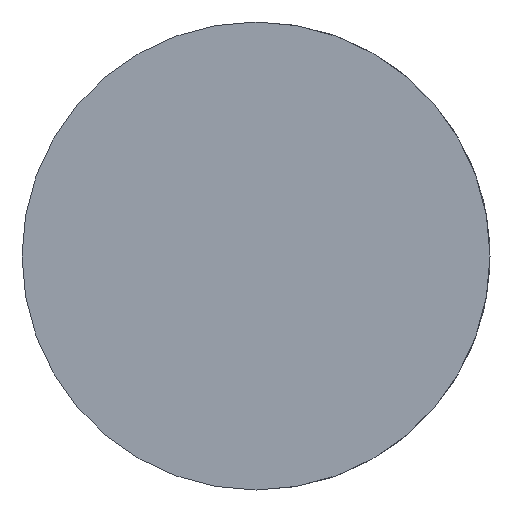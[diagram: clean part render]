
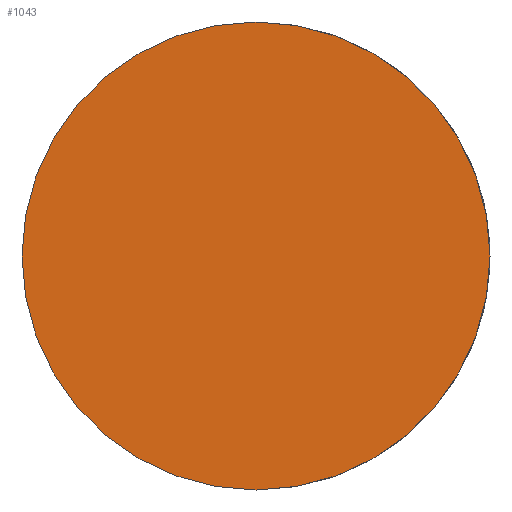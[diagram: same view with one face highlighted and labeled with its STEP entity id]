
A CAD part, front view. The second image highlights one B-rep face of the part: STEP entity #1043.
In plain terms, the highlighted planar face has unit normal (0, -1, 0).
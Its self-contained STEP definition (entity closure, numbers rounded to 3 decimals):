
#16 = CARTESIAN_POINT ( 'NONE',  ( 0., 0., 0. ) ) ;
#59 = DIRECTION ( 'NONE',  ( 0., 0., -1. ) ) ;
#265 = AXIS2_PLACEMENT_3D ( 'NONE', #1636, #524, #1240 ) ;
#390 = ORIENTED_EDGE ( 'NONE', *, *, #1194, .T. ) ;
#401 = FACE_OUTER_BOUND ( 'NONE', #1257, .T. ) ;
#413 = DIRECTION ( 'NONE',  ( 0., 0., -1. ) ) ;
#416 = CIRCLE ( 'NONE', #2144, 60. ) ;
#470 = EDGE_CURVE ( 'NONE', #1812, #1271, #416, .T. ) ;
#524 = DIRECTION ( 'NONE',  ( 0., -1., 0. ) ) ;
#663 = CARTESIAN_POINT ( 'NONE',  ( 0., 0., -60. ) ) ;
#987 = CARTESIAN_POINT ( 'NONE',  ( 0., 0., 0. ) ) ;
#1043 = ADVANCED_FACE ( 'NONE', ( #401 ), #1100, .T. ) ;
#1100 = PLANE ( 'NONE',  #265 ) ;
#1129 = ORIENTED_EDGE ( 'NONE', *, *, #470, .T. ) ;
#1194 = EDGE_CURVE ( 'NONE', #1271, #1812, #1404, .T. ) ;
#1240 = DIRECTION ( 'NONE',  ( 0., 0., -1. ) ) ;
#1257 = EDGE_LOOP ( 'NONE', ( #1129, #390 ) ) ;
#1271 = VERTEX_POINT ( 'NONE', #663 ) ;
#1404 = CIRCLE ( 'NONE', #1743, 60. ) ;
#1636 = CARTESIAN_POINT ( 'NONE',  ( 0., 0., 0. ) ) ;
#1640 = DIRECTION ( 'NONE',  ( 0., -1., 0. ) ) ;
#1743 = AXIS2_PLACEMENT_3D ( 'NONE', #987, #2175, #413 ) ;
#1812 = VERTEX_POINT ( 'NONE', #2193 ) ;
#2144 = AXIS2_PLACEMENT_3D ( 'NONE', #16, #1640, #59 ) ;
#2175 = DIRECTION ( 'NONE',  ( 0., -1., 0. ) ) ;
#2193 = CARTESIAN_POINT ( 'NONE',  ( 0., 0., 60. ) ) ;
